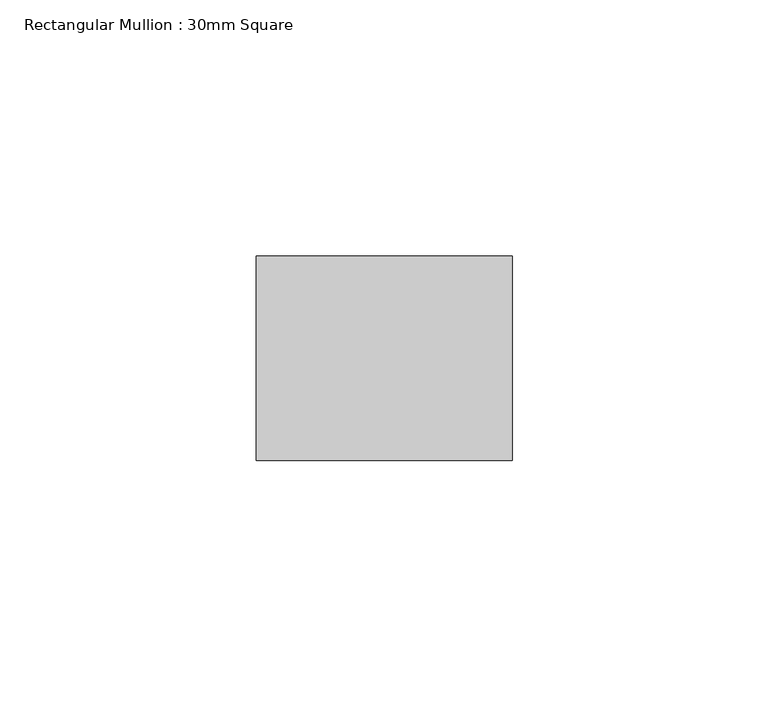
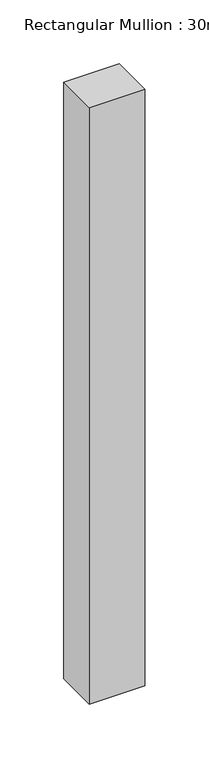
"""IFC4 building model written with IfcOpenShell, lengths in millimetres: member geometry, Rectangular Mullion : 30mm Square."""

from ifc_helpers import new_model, si_unit, frame, origin, place, context, project, spatial, polyline, outline, extrude, source, transform, mapped, element, save


def rectangular_mullion_30mm_square_95f67fdb(model_context):
    return source(origin(), model_context, "Body", "SweptSolid", [
        extrude(outline(polyline([(25.0, 20.0), (25.0, -20.0), (-25.0, -20.0), (-25.0, 20.0), (25.0, 20.0)])), frame((0.0, 0.0, -570.0), z_axis=(0.0, 0.0, 1.0), x_axis=(1.0, 0.0, 0.0)), (0.0, 0.0, 1.0), 570.0),
    ])


if __name__ == "__main__":
    model = new_model("IFC4")
    model_context = context("Model", 3, world=origin())
    ifc_project = project(units=[si_unit("LENGTHUNIT", "METRE", prefix="MILLI")], contexts=[model_context])
    site = spatial("IfcSite", under=ifc_project)
    building = spatial("IfcBuilding", under=site)
    placement = place(None, origin())
    rectangular_mullion_30mm_square_shape = rectangular_mullion_30mm_square_95f67fdb(model_context)
    element("IfcMember", 1, ObjectType="Rectangular Mullion : 30mm Square", at=placement, inside=building, context=model_context, shape_type="MappedRepresentation", body=[
        mapped(rectangular_mullion_30mm_square_shape, transform((0.0, 0.0, 0.0), x_axis=(1.0, 0.0, 0.0), y_axis=(0.0, 1.0, 0.0), z_axis=(0.0, 0.0, 1.0))),
    ])
    save(model, "model.ifc")
